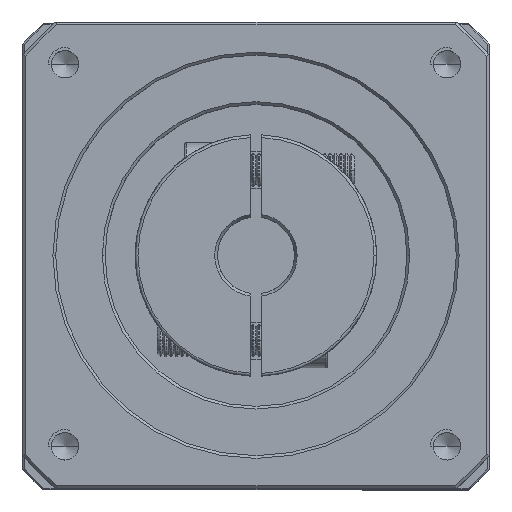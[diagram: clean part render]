
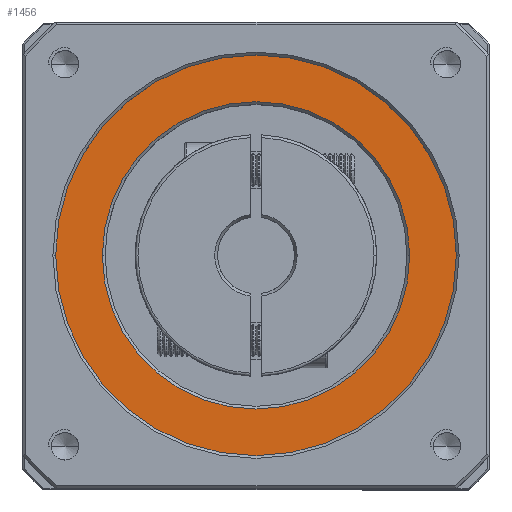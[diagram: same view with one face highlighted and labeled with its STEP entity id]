
A CAD part, top view. The second image highlights one B-rep face of the part: STEP entity #1456.
In plain terms, the highlighted planar face has unit normal (0, 0, 1).
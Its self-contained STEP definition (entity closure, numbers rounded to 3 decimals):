
#1456 = ADVANCED_FACE ( 'NONE', ( #52651, #40598 ), #33949, .T. ) ;
#4693 = EDGE_LOOP ( 'NONE', ( #91977, #7360 ) ) ;
#7360 = ORIENTED_EDGE ( 'NONE', *, *, #43321, .T. ) ;
#11276 = ORIENTED_EDGE ( 'NONE', *, *, #88408, .T. ) ;
#12954 = CIRCLE ( 'NONE', #30623, 28. ) ;
#14723 = VERTEX_POINT ( 'NONE', #117543 ) ;
#20151 = EDGE_LOOP ( 'NONE', ( #11276, #84906 ) ) ;
#25178 = DIRECTION ( 'NONE',  ( 1., 0., 0. ) ) ;
#27929 = CARTESIAN_POINT ( 'NONE',  ( -39.569, 50.545, 5.935 ) ) ;
#30623 = AXIS2_PLACEMENT_3D ( 'NONE', #54518, #121116, #64033 ) ;
#33031 = CARTESIAN_POINT ( 'NONE',  ( -67.569, 50.545, 5.935 ) ) ;
#33949 = PLANE ( 'NONE',  #107635 ) ;
#34375 = VERTEX_POINT ( 'NONE', #120277 ) ;
#37787 = AXIS2_PLACEMENT_3D ( 'NONE', #27929, #94722, #114296 ) ;
#40598 = FACE_BOUND ( 'NONE', #20151, .T. ) ;
#43321 = EDGE_CURVE ( 'NONE', #34375, #88542, #45770, .T. ) ;
#45294 = CARTESIAN_POINT ( 'NONE',  ( -39.569, 50.545, 5.935 ) ) ;
#45770 = CIRCLE ( 'NONE', #63552, 36.5 ) ;
#48093 = CARTESIAN_POINT ( 'NONE',  ( -39.569, 50.545, 5.935 ) ) ;
#52651 = FACE_OUTER_BOUND ( 'NONE', #4693, .T. ) ;
#54518 = CARTESIAN_POINT ( 'NONE',  ( -39.569, 50.545, 5.935 ) ) ;
#58070 = DIRECTION ( 'NONE',  ( 1., 0., 0. ) ) ;
#58824 = CARTESIAN_POINT ( 'NONE',  ( -3.069, 50.545, 5.935 ) ) ;
#61047 = CARTESIAN_POINT ( 'NONE',  ( -39.569, 50.545, 5.935 ) ) ;
#62272 = DIRECTION ( 'NONE',  ( 1., 0., 0. ) ) ;
#63213 = DIRECTION ( 'NONE',  ( 0., 0., 1. ) ) ;
#63552 = AXIS2_PLACEMENT_3D ( 'NONE', #48093, #105567, #58070 ) ;
#64033 = DIRECTION ( 'NONE',  ( 1., 0., 0. ) ) ;
#80700 = CIRCLE ( 'NONE', #37787, 28. ) ;
#84906 = ORIENTED_EDGE ( 'NONE', *, *, #121074, .T. ) ;
#88408 = EDGE_CURVE ( 'NONE', #14723, #110811, #80700, .T. ) ;
#88542 = VERTEX_POINT ( 'NONE', #58824 ) ;
#91977 = ORIENTED_EDGE ( 'NONE', *, *, #103950, .T. ) ;
#94722 = DIRECTION ( 'NONE',  ( 0., 0., -1. ) ) ;
#99769 = DIRECTION ( 'NONE',  ( 0., 0., 1. ) ) ;
#103950 = EDGE_CURVE ( 'NONE', #88542, #34375, #106760, .T. ) ;
#105567 = DIRECTION ( 'NONE',  ( 0., 0., 1. ) ) ;
#106760 = CIRCLE ( 'NONE', #113978, 36.5 ) ;
#107635 = AXIS2_PLACEMENT_3D ( 'NONE', #45294, #63213, #25178 ) ;
#110811 = VERTEX_POINT ( 'NONE', #33031 ) ;
#113978 = AXIS2_PLACEMENT_3D ( 'NONE', #61047, #99769, #62272 ) ;
#114296 = DIRECTION ( 'NONE',  ( 1., 0., 0. ) ) ;
#117543 = CARTESIAN_POINT ( 'NONE',  ( -11.569, 50.545, 5.935 ) ) ;
#120277 = CARTESIAN_POINT ( 'NONE',  ( -76.069, 50.545, 5.935 ) ) ;
#121074 = EDGE_CURVE ( 'NONE', #110811, #14723, #12954, .T. ) ;
#121116 = DIRECTION ( 'NONE',  ( 0., 0., -1. ) ) ;
